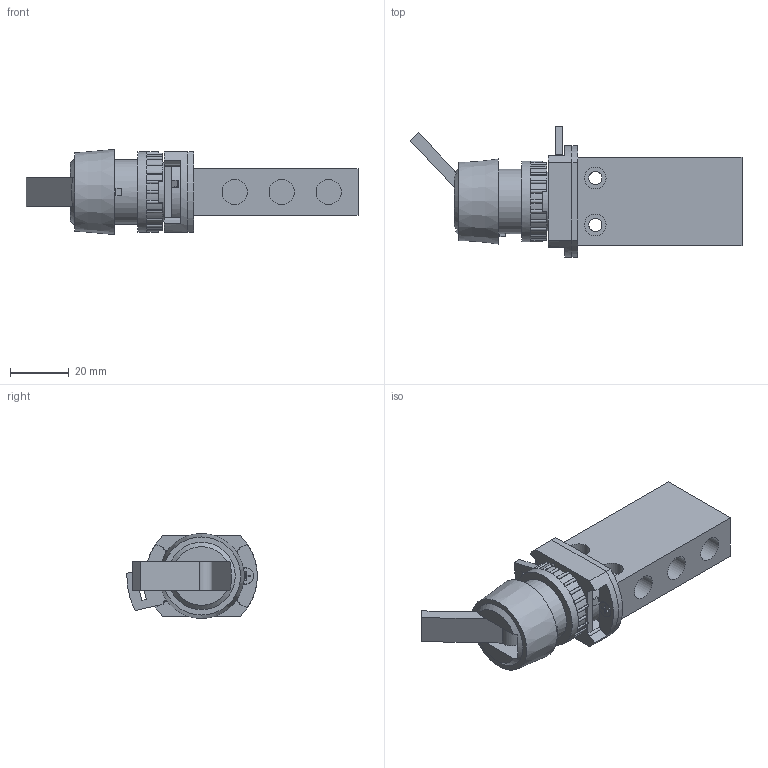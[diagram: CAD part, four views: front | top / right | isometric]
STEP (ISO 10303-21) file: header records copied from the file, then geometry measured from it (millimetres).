
FILE_DESCRIPTION (( 'STEP AP214' ), '1' );
FILE_NAME ('18-T-23-016---T-28-511_Airtec.step', '2018-11-15T12:47:37', ( '' ), ( '' ), 'SwSTEP 2.0', 'SolidWorks 2010', '' );
FILE_SCHEMA (( 'AUTOMOTIVE_DESIGN' ));
Length unit declared in the file: millimetre
Products named in the file (3): 18-T-23-016-Airtec; T-28-511_161115; 18-T-23-016---T-28-511_Airtec
Assembly tree (2 placements, depth 2):
  18-T-23-016---T-28-511_Airtec
    18-T-23-016-Airtec
    T-28-511_161115
Bounding box: 113.16 x 44.48 x 29 mm (x, y, z)
Volume: 47549.9 mm3; surface area: 17911.5 mm2
Topology: 2 solids, 2 shells, 445 faces, 1185 edges, 766 vertices
Faces by surface type: plane 221, cylinder 159, cone 49, torus 16
Full cylindrical faces by diameter (mm): 2.013 x1, 2.459 x4, 2.693 x2, 3 x1, 3.2 x2, 4.5 x2, 4.7 x1, 5.5 x3, 5.7 x2, 6 x1, 7.4 x4, 8.566 x5, 10 x1, 10.5 x1, 16 x1, 20 x1, 20.3 x1, 22 x1, 27.4 x1
Entity records: 14081 total; most frequent: CARTESIAN_POINT 2971, DIRECTION 2418, ORIENTED_EDGE 2220, EDGE_CURVE 1110, AXIS2_PLACEMENT_3D 946, VERTEX_POINT 747, EDGE_LOOP 537, LINE 526
